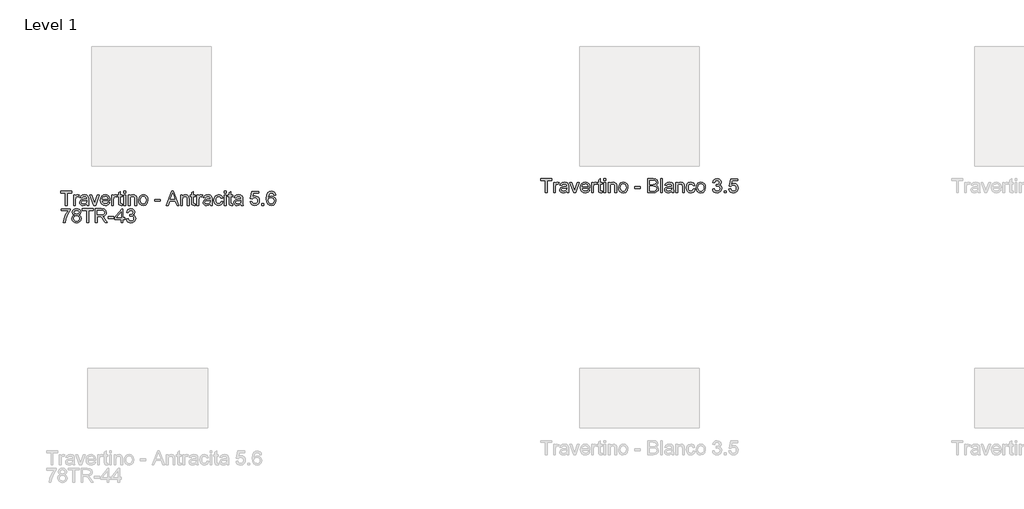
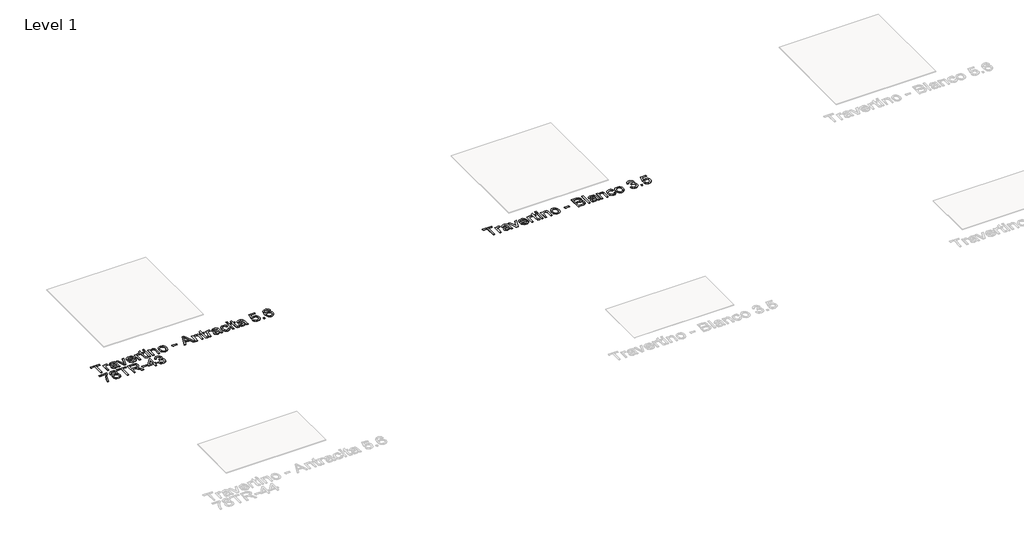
# One storey, part 14 of 80: 2 proxies.
"""IFC4 building model written with IfcOpenShell, lengths in millimetres."""

from ifc_helpers import new_model, si_unit, origin, origin_with_axes, place, context, project, spatial, polyline, outline, extrude, element, save

model = new_model("IFC4")

# Units and contexts
model_context = context("Model", 3, world=origin())
ifc_project = project(units=[si_unit("LENGTHUNIT", "METRE", prefix="MILLI")], contexts=[model_context])

# Site, building, storey
site = spatial("IfcSite", under=ifc_project)
building = spatial("IfcBuilding", under=site)
storey = spatial("IfcBuildingStorey", under=building, Name="Level 1", Elevation=0.0)

# Proxies
placement = place(None, origin())
element("IfcBuildingElementProxy", 1, Name="24\" Arial", ObjectType="24\" Arial", at=placement, inside=storey, context=model_context, shape_type="SweptSolid", body=[
    extrude(outline(polyline([(-23304.8256117, -10335.3931631), (-23304.8256117, -10232.0085477), (-23343.5948424, -10232.0085477), (-23343.5948424, -10217.239317), (-23251.2871501, -10217.239317), (-23251.2871501, -10232.0085477), (-23290.0563809, -10232.0085477), (-23290.0563809, -10335.3931631), (-23304.8256117, -10335.3931631)])), origin_with_axes(), (0.0, 0.0, 1.0), 2.0),
    extrude(outline(polyline([(-23236.5179193, -10335.3931631), (-23236.5179193, -10248.6239323), (-23223.5948424, -10248.6239323), (-23223.5948424, -10261.4604708), (-23214.4217655, -10249.6335477), (-23205.1909963, -10246.7777785), (-23190.3640732, -10251.3354708), (-23195.2967655, -10264.5758554), (-23205.6813809, -10261.5470093), (-23214.0323424, -10264.4604708), (-23219.3544578, -10272.5373939), (-23221.7486886, -10289.7873939), (-23221.7486886, -10335.3931631), (-23236.5179193, -10335.3931631)])), origin_with_axes(), (0.0, 0.0, 1.0), 2.0),
    extrude(outline(polyline([(-23125.7486886, -10324.31624), (-23140.070804, -10334.3258554), (-23155.8929193, -10337.239317), (-23168.2354674, -10335.4869131), (-23177.3400347, -10330.2297016), (-23182.9542174, -10322.2465285), (-23184.8256117, -10312.31624), (-23181.9986886, -10300.6335477), (-23174.570804, -10292.1527785), (-23164.2294578, -10287.3066247), (-23151.4506117, -10285.0854708), (-23125.835227, -10280.0085477), (-23125.7486886, -10276.7200862), (-23129.8159963, -10265.81624), (-23146.1429193, -10261.5470093), (-23161.085227, -10264.3883554), (-23168.210227, -10274.4700862), (-23182.9794578, -10272.6239323), (-23176.5900347, -10258.2008554), (-23163.7246501, -10249.7489323), (-23144.2390732, -10246.7777785), (-23126.3400347, -10249.4027785), (-23116.2294578, -10255.9941247), (-23111.7006117, -10266.0181631), (-23110.9794578, -10278.94124), (-23110.9794578, -10297.31624), (-23110.2294578, -10322.9748939), (-23107.2871501, -10335.3931631), (-23122.0563809, -10335.3931631), (-23125.7486886, -10324.31624)]), holes=[polyline([(-23125.7486886, -10294.7777785), (-23149.5756117, -10299.3066247), (-23162.2823424, -10301.7008554), (-23168.0371501, -10305.5950862), (-23170.0563809, -10311.2777785), (-23165.6573424, -10319.2681631), (-23152.7486886, -10322.4700862), (-23137.8063809, -10318.9364323), (-23128.1717655, -10310.3835477), (-23125.835227, -10298.9604708), (-23125.7486886, -10294.7777785)])]), origin_with_axes(), (0.0, 0.0, 1.0), 2.0),
    extrude(outline(polyline([(-23069.383304, -10335.3931631), (-23099.9025347, -10248.6239323), (-23084.2679193, -10248.6239323), (-23065.7775347, -10300.6047016), (-23060.210227, -10318.0854708), (-23054.758304, -10301.5854708), (-23036.1525347, -10248.6239323), (-23020.5179193, -10248.6239323), (-23050.6621501, -10335.3931631), (-23069.383304, -10335.3931631)])), origin_with_axes(), (0.0, 0.0, 1.0), 2.0),
    extrude(outline(polyline([(-22946.8448424, -10309.5470093), (-22932.3640732, -10311.3931631), (-22937.5816213, -10322.3042208), (-22945.9073424, -10330.4604708), (-22957.1537367, -10335.5446054), (-22971.133304, -10337.239317), (-22988.4626309, -10334.3150381), (-23001.7967655, -10325.5422016), (-23010.2991693, -10311.4905189), (-23013.133304, -10292.7297016), (-23010.2703232, -10273.3378747), (-23001.6813809, -10258.8354708), (-22988.5275347, -10249.7922016), (-22971.9698424, -10246.7777785), (-22955.9277751, -10249.78499), (-22943.1092655, -10258.8066247), (-22934.7042174, -10273.2801823), (-22931.9025347, -10292.6431631), (-22931.9890732, -10296.6239323), (-22998.3640732, -10296.6239323), (-22995.8075828, -10307.6792208), (-22989.8688809, -10315.8066247), (-22981.2979674, -10320.8042208), (-22970.8448424, -10322.4700862), (-22956.3640732, -10319.3835477), (-22946.8448424, -10309.5470093)]), holes=[polyline([(-22998.3640732, -10281.8547016), (-22946.6717655, -10281.8547016), (-22952.585227, -10268.4700862), (-22961.195804, -10263.2777785), (-22972.0275347, -10261.5470093), (-22990.2150347, -10267.0710477), (-22995.9373905, -10273.5289804), (-22998.3640732, -10281.8547016)])]), origin_with_axes(), (0.0, 0.0, 1.0), 2.0),
    extrude(outline(polyline([(-22917.133304, -10335.3931631), (-22917.133304, -10248.6239323), (-22904.210227, -10248.6239323), (-22904.210227, -10261.4604708), (-22895.0371501, -10249.6335477), (-22885.8063809, -10246.7777785), (-22870.9794578, -10251.3354708), (-22875.9121501, -10264.5758554), (-22886.2967655, -10261.5470093), (-22894.647727, -10264.4604708), (-22899.9698424, -10272.5373939), (-22902.3640732, -10289.7873939), (-22902.3640732, -10335.3931631), (-22917.133304, -10335.3931631)])), origin_with_axes(), (0.0, 0.0, 1.0), 2.0),
    extrude(outline(polyline([(-22830.3640732, -10323.0758554), (-22828.5179193, -10335.8258554), (-22839.5659963, -10337.239317), (-22851.9409963, -10334.7873939), (-22858.1140732, -10328.3547016), (-22859.9025347, -10311.5950862), (-22859.9025347, -10263.3931631), (-22870.9794578, -10263.3931631), (-22870.9794578, -10248.6239323), (-22859.9025347, -10248.6239323), (-22859.9025347, -10227.5373939), (-22845.133304, -10218.8547016), (-22845.133304, -10248.6239323), (-22830.3640732, -10248.6239323), (-22830.3640732, -10263.3931631), (-22845.133304, -10263.3931631), (-22845.133304, -10311.1623939), (-22844.3544578, -10318.7777785), (-22841.8304193, -10321.4748939), (-22836.7967655, -10322.4700862), (-22830.3640732, -10323.0758554)])), origin_with_axes(), (0.0, 0.0, 1.0), 2.0),
    extrude(outline(polyline([(-22815.5948424, -10232.0085477), (-22815.5948424, -10217.239317), (-22800.8256117, -10217.239317), (-22800.8256117, -10232.0085477), (-22815.5948424, -10232.0085477)])), origin_with_axes(), (0.0, 0.0, 1.0), 2.0),
    extrude(outline(polyline([(-22815.5948424, -10335.3931631), (-22815.5948424, -10248.6239323), (-22800.8256117, -10248.6239323), (-22800.8256117, -10335.3931631), (-22815.5948424, -10335.3931631)])), origin_with_axes(), (0.0, 0.0, 1.0), 2.0),
    extrude(outline(polyline([(-22778.6717655, -10335.3931631), (-22778.6717655, -10248.6239323), (-22763.9025347, -10248.6239323), (-22763.9025347, -10260.739317), (-22752.6092655, -10250.2681631), (-22737.1909963, -10246.7777785), (-22723.2438809, -10249.5902785), (-22713.7246501, -10256.9748939), (-22709.2967655, -10267.8354708), (-22708.5179193, -10282.114317), (-22708.5179193, -10335.3931631), (-22723.2871501, -10335.3931631), (-22723.2871501, -10284.1047016), (-22724.9890732, -10271.0373939), (-22731.0034963, -10264.12874), (-22741.1429193, -10261.5470093), (-22757.1669578, -10267.3450862), (-22762.2186405, -10275.7465285), (-22763.9025347, -10289.3547016), (-22763.9025347, -10335.3931631), (-22778.6717655, -10335.3931631)])), origin_with_axes(), (0.0, 0.0, 1.0), 2.0),
    extrude(outline(polyline([(-22691.9025347, -10292.0085477), (-22688.7078232, -10271.0878747), (-22679.1236886, -10256.3835477), (-22667.2823424, -10249.1792208), (-22653.1044578, -10246.7777785), (-22637.5888328, -10249.7020573), (-22625.195804, -10258.4748939), (-22617.0720059, -10272.4039804), (-22614.3640732, -10290.7970093), (-22619.1525347, -10317.0758554), (-22633.0996501, -10331.9460477), (-22653.1044578, -10337.239317), (-22668.8075828, -10334.3258554), (-22681.1861886, -10325.5854708), (-22689.2234482, -10311.364317), (-22691.9025347, -10292.0085477)]), holes=[polyline([(-22677.133304, -10291.9797016), (-22675.4241693, -10305.3462881), (-22670.2967655, -10314.8691247), (-22662.5804193, -10320.5698458), (-22653.1044578, -10322.4700862), (-22643.6717655, -10320.5590285), (-22635.9698424, -10314.8258554), (-22630.8424386, -10305.176817), (-22629.133304, -10291.5181631), (-22630.8532559, -10278.5409997), (-22636.0131117, -10269.1479708), (-22643.725852, -10263.4472497), (-22653.1044578, -10261.5470093), (-22662.5804193, -10263.4400381), (-22670.2967655, -10269.1191247), (-22675.4241693, -10278.6203266), (-22677.133304, -10291.9797016)])]), origin_with_axes(), (0.0, 0.0, 1.0), 2.0),
    extrude(outline(polyline([(-22558.9794578, -10300.31624), (-22558.9794578, -10285.5470093), (-22512.8256117, -10285.5470093), (-22512.8256117, -10300.31624), (-22558.9794578, -10300.31624)])), origin_with_axes(), (0.0, 0.0, 1.0), 2.0),
    extrude(outline(polyline([(-22461.9698424, -10335.3931631), (-22414.8063809, -10217.239317), (-22402.2294578, -10217.239317), (-22355.0659963, -10335.3931631), (-22370.6717655, -10335.3931631), (-22384.2006117, -10298.4700862), (-22432.8640732, -10298.4700862), (-22446.3640732, -10335.3931631), (-22461.9698424, -10335.3931631)]), holes=[polyline([(-22427.4409963, -10283.7008554), (-22389.5948424, -10283.7008554), (-22400.2390732, -10254.6527785), (-22408.5179193, -10232.0085477), (-22415.8736886, -10252.114317), (-22427.4409963, -10283.7008554)])]), origin_with_axes(), (0.0, 0.0, 1.0), 2.0),
    extrude(outline(polyline([(-22341.133304, -10335.3931631), (-22341.133304, -10248.6239323), (-22326.3640732, -10248.6239323), (-22326.3640732, -10260.739317), (-22315.070804, -10250.2681631), (-22299.6525347, -10246.7777785), (-22285.7054193, -10249.5902785), (-22276.1861886, -10256.9748939), (-22271.758304, -10267.8354708), (-22270.9794578, -10282.114317), (-22270.9794578, -10335.3931631), (-22285.7486886, -10335.3931631), (-22285.7486886, -10284.1047016), (-22287.4506117, -10271.0373939), (-22293.4650347, -10264.12874), (-22303.6044578, -10261.5470093), (-22319.6284963, -10267.3450862), (-22324.680179, -10275.7465285), (-22326.3640732, -10289.3547016), (-22326.3640732, -10335.3931631), (-22341.133304, -10335.3931631)])), origin_with_axes(), (0.0, 0.0, 1.0), 2.0),
    extrude(outline(polyline([(-22219.2871501, -10323.0758554), (-22217.4409963, -10335.8258554), (-22228.4890732, -10337.239317), (-22240.8640732, -10334.7873939), (-22247.0371501, -10328.3547016), (-22248.8256117, -10311.5950862), (-22248.8256117, -10263.3931631), (-22259.9025347, -10263.3931631), (-22259.9025347, -10248.6239323), (-22248.8256117, -10248.6239323), (-22248.8256117, -10227.5373939), (-22234.0563809, -10218.8547016), (-22234.0563809, -10248.6239323), (-22219.2871501, -10248.6239323), (-22219.2871501, -10263.3931631), (-22234.0563809, -10263.3931631), (-22234.0563809, -10311.1623939), (-22233.2775347, -10318.7777785), (-22230.7534963, -10321.4748939), (-22225.7198424, -10322.4700862), (-22219.2871501, -10323.0758554)])), origin_with_axes(), (0.0, 0.0, 1.0), 2.0),
    extrude(outline(polyline([(-22204.5179193, -10335.3931631), (-22204.5179193, -10248.6239323), (-22191.5948424, -10248.6239323), (-22191.5948424, -10261.4604708), (-22182.4217655, -10249.6335477), (-22173.1909963, -10246.7777785), (-22158.3640732, -10251.3354708), (-22163.2967655, -10264.5758554), (-22173.6813809, -10261.5470093), (-22182.0323424, -10264.4604708), (-22187.3544578, -10272.5373939), (-22189.7486886, -10289.7873939), (-22189.7486886, -10335.3931631), (-22204.5179193, -10335.3931631)])), origin_with_axes(), (0.0, 0.0, 1.0), 2.0),
    extrude(outline(polyline([(-22093.7486886, -10324.31624), (-22108.070804, -10334.3258554), (-22123.8929193, -10337.239317), (-22136.2354674, -10335.4869131), (-22145.3400347, -10330.2297016), (-22150.9542174, -10322.2465285), (-22152.8256117, -10312.31624), (-22149.9986886, -10300.6335477), (-22142.570804, -10292.1527785), (-22132.2294578, -10287.3066247), (-22119.4506117, -10285.0854708), (-22093.835227, -10280.0085477), (-22093.7486886, -10276.7200862), (-22097.8159963, -10265.81624), (-22114.1429193, -10261.5470093), (-22129.085227, -10264.3883554), (-22136.210227, -10274.4700862), (-22150.9794578, -10272.6239323), (-22144.5900347, -10258.2008554), (-22131.7246501, -10249.7489323), (-22112.2390732, -10246.7777785), (-22094.3400347, -10249.4027785), (-22084.2294578, -10255.9941247), (-22079.7006117, -10266.0181631), (-22078.9794578, -10278.94124), (-22078.9794578, -10297.31624), (-22078.2294578, -10322.9748939), (-22075.2871501, -10335.3931631), (-22090.0563809, -10335.3931631), (-22093.7486886, -10324.31624)]), holes=[polyline([(-22093.7486886, -10294.7777785), (-22117.5756117, -10299.3066247), (-22130.2823424, -10301.7008554), (-22136.0371501, -10305.5950862), (-22138.0563809, -10311.2777785), (-22133.6573424, -10319.2681631), (-22120.7486886, -10322.4700862), (-22105.8063809, -10318.9364323), (-22096.1717655, -10310.3835477), (-22093.835227, -10298.9604708), (-22093.7486886, -10294.7777785)])]), origin_with_axes(), (0.0, 0.0, 1.0), 2.0),
    extrude(outline(polyline([(-22003.2871501, -10304.0085477), (-21988.5179193, -10305.8547016), (-21992.6357078, -10318.9905189), (-22000.3736886, -10328.9172016), (-22011.0034963, -10335.1587881), (-22023.7967655, -10337.239317), (-22039.507102, -10334.3366727), (-22051.7919578, -10325.62874), (-22059.7210443, -10311.4977304), (-22062.3640732, -10292.3258554), (-22057.8496501, -10267.7922016), (-22052.1525347, -10258.5938843), (-22044.0900347, -10252.0277785), (-22023.9986886, -10246.7777785), (-22011.5191213, -10248.5806631), (-22001.5419578, -10253.989317), (-21994.3845059, -10262.7152785), (-21990.3640732, -10274.4700862), (-22005.133304, -10276.31624), (-22011.9842655, -10265.25374), (-22023.883304, -10261.5470093), (-22033.4277751, -10263.3715285), (-22041.0034963, -10268.8450862), (-22045.9470059, -10278.2633554), (-22047.5948424, -10291.9220093), (-22045.9830636, -10305.7645573), (-22041.147727, -10315.2152785), (-22033.7090251, -10320.6563843), (-22024.2871501, -10322.4700862), (-22010.3688809, -10317.94124), (-22003.2871501, -10304.0085477)])), origin_with_axes(), (0.0, 0.0, 1.0), 2.0),
    extrude(outline(polyline([(-21975.5948424, -10232.0085477), (-21975.5948424, -10217.239317), (-21960.8256117, -10217.239317), (-21960.8256117, -10232.0085477), (-21975.5948424, -10232.0085477)])), origin_with_axes(), (0.0, 0.0, 1.0), 2.0),
    extrude(outline(polyline([(-21975.5948424, -10335.3931631), (-21975.5948424, -10248.6239323), (-21960.8256117, -10248.6239323), (-21960.8256117, -10335.3931631), (-21975.5948424, -10335.3931631)])), origin_with_axes(), (0.0, 0.0, 1.0), 2.0),
    extrude(outline(polyline([(-21907.2871501, -10323.0758554), (-21905.4409963, -10335.8258554), (-21916.4890732, -10337.239317), (-21928.8640732, -10334.7873939), (-21935.0371501, -10328.3547016), (-21936.8256117, -10311.5950862), (-21936.8256117, -10263.3931631), (-21947.9025347, -10263.3931631), (-21947.9025347, -10248.6239323), (-21936.8256117, -10248.6239323), (-21936.8256117, -10227.5373939), (-21922.0563809, -10218.8547016), (-21922.0563809, -10248.6239323), (-21907.2871501, -10248.6239323), (-21907.2871501, -10263.3931631), (-21922.0563809, -10263.3931631), (-21922.0563809, -10311.1623939), (-21921.2775347, -10318.7777785), (-21918.7534963, -10321.4748939), (-21913.7198424, -10322.4700862), (-21907.2871501, -10323.0758554)])), origin_with_axes(), (0.0, 0.0, 1.0), 2.0),
    extrude(outline(polyline([(-21837.133304, -10324.31624), (-21851.4554193, -10334.3258554), (-21867.2775347, -10337.239317), (-21879.6200828, -10335.4869131), (-21888.7246501, -10330.2297016), (-21894.3388328, -10322.2465285), (-21896.210227, -10312.31624), (-21893.383304, -10300.6335477), (-21885.9554193, -10292.1527785), (-21875.6140732, -10287.3066247), (-21862.835227, -10285.0854708), (-21837.2198424, -10280.0085477), (-21837.133304, -10276.7200862), (-21841.2006117, -10265.81624), (-21857.5275347, -10261.5470093), (-21872.4698424, -10264.3883554), (-21879.5948424, -10274.4700862), (-21894.3640732, -10272.6239323), (-21887.9746501, -10258.2008554), (-21875.1092655, -10249.7489323), (-21855.6236886, -10246.7777785), (-21837.7246501, -10249.4027785), (-21827.6140732, -10255.9941247), (-21823.085227, -10266.0181631), (-21822.3640732, -10278.94124), (-21822.3640732, -10297.31624), (-21821.6140732, -10322.9748939), (-21818.6717655, -10335.3931631), (-21833.4409963, -10335.3931631), (-21837.133304, -10324.31624)]), holes=[polyline([(-21837.133304, -10294.7777785), (-21860.960227, -10299.3066247), (-21873.6669578, -10301.7008554), (-21879.4217655, -10305.5950862), (-21881.4409963, -10311.2777785), (-21877.0419578, -10319.2681631), (-21864.133304, -10322.4700862), (-21849.1909963, -10318.9364323), (-21839.5563809, -10310.3835477), (-21837.2198424, -10298.9604708), (-21837.133304, -10294.7777785)])]), origin_with_axes(), (0.0, 0.0, 1.0), 2.0),
    extrude(outline(polyline([(-21759.5948424, -10304.0085477), (-21744.8256117, -10302.1623939), (-21737.383304, -10317.37874), (-21721.9506117, -10322.4700862), (-21711.3640732, -10320.6996535), (-21703.4313809, -10315.3883554), (-21698.477054, -10307.1491727), (-21696.8256117, -10296.5950862), (-21698.3724867, -10286.6575862), (-21703.0131117, -10279.0566247), (-21710.7835443, -10274.2321054), (-21721.7198424, -10272.6239323), (-21734.6861886, -10275.19124), (-21742.9794578, -10281.8547016), (-21757.7486886, -10280.0085477), (-21744.8256117, -10219.0854708), (-21687.5948424, -10219.0854708), (-21687.5948424, -10233.8547016), (-21732.883304, -10233.8547016), (-21739.2006117, -10266.3931631), (-21728.6501309, -10259.989317), (-21717.5948424, -10257.8547016), (-21703.7955636, -10260.5013362), (-21692.3400347, -10268.44124), (-21684.6272943, -10280.5422016), (-21682.0563809, -10295.6720093), (-21684.3712847, -10310.44124), (-21691.3159963, -10323.0758554), (-21704.6140732, -10333.6984516), (-21722.008304, -10337.239317), (-21736.5143136, -10334.9640766), (-21748.070804, -10328.1383554), (-21755.992679, -10317.5554227), (-21759.5948424, -10304.0085477)])), origin_with_axes(), (0.0, 0.0, 1.0), 2.0),
    extrude(outline(polyline([(-21661.7486886, -10335.3931631), (-21661.7486886, -10320.6239323), (-21646.9794578, -10320.6239323), (-21646.9794578, -10335.3931631), (-21661.7486886, -10335.3931631)])), origin_with_axes(), (0.0, 0.0, 1.0), 2.0),
    extrude(outline(polyline([(-21547.2871501, -10248.6239323), (-21562.0563809, -10250.4700862), (-21567.6525347, -10238.1527785), (-21574.352054, -10233.5446054), (-21582.4506117, -10232.0085477), (-21595.7775347, -10235.5854708), (-21605.8592655, -10249.0133554), (-21610.0563809, -10275.3354708), (-21597.0323424, -10263.551817), (-21580.8929193, -10259.7008554), (-21567.2486886, -10262.333067), (-21555.7967655, -10270.2297016), (-21548.0299386, -10282.2946054), (-21545.4409963, -10297.4316247), (-21550.3159963, -10317.8114323), (-21563.7294578, -10332.2345093), (-21583.085227, -10337.239317), (-21599.8412367, -10333.9220093), (-21613.1861886, -10323.9700862), (-21621.9157559, -10306.4027785), (-21624.8256117, -10280.239317), (-21621.5948424, -10250.8234516), (-21611.9025347, -10230.7104708), (-21598.6693617, -10220.6071054), (-21581.5275347, -10217.239317), (-21568.5684001, -10219.3234516), (-21558.1909963, -10225.5758554), (-21550.9217655, -10235.5061439), (-21547.2871501, -10248.6239323)]), holes=[polyline([(-21610.0563809, -10297.2008554), (-21606.6381117, -10309.9941247), (-21597.5515732, -10319.2825862), (-21584.2390732, -10322.4700862), (-21574.492679, -10320.8186439), (-21566.8304193, -10315.864317), (-21561.8652751, -10308.0758554), (-21560.210227, -10297.9220093), (-21561.8436405, -10288.175615), (-21566.7438809, -10280.7441247), (-21574.5359482, -10276.0385958), (-21584.8448424, -10274.4700862), (-21594.5768136, -10276.0385958), (-21602.7150347, -10280.7441247), (-21608.2210443, -10287.9953266), (-21610.0563809, -10297.2008554)])]), origin_with_axes(), (0.0, 0.0, 1.0), 2.0),
    extrude(outline(polyline([(-23339.9025347, -10379.7008554), (-23339.9025347, -10364.9316247), (-23262.3640732, -10364.9316247), (-23262.3640732, -10376.8739323), (-23284.3592655, -10408.6479708), (-23301.1909963, -10449.1335477), (-23306.6717655, -10481.239317), (-23321.4409963, -10481.239317), (-23315.570804, -10447.9220093), (-23299.460227, -10410.2633554), (-23277.133304, -10379.7008554), (-23339.9025347, -10379.7008554)])), origin_with_axes(), (0.0, 0.0, 1.0), 2.0),
    extrude(outline(polyline([(-23227.9217655, -10416.1623939), (-23241.3784963, -10406.989317), (-23245.7486886, -10392.7104708), (-23243.3688809, -10381.1647977), (-23236.2294578, -10371.6239323), (-23225.1309001, -10365.2200862), (-23210.8736886, -10363.0854708), (-23196.5299386, -10365.270567), (-23185.2871501, -10371.8258554), (-23178.0179193, -10381.5181631), (-23175.5948424, -10393.114317), (-23179.9073424, -10407.0325862), (-23192.9890732, -10416.1623939), (-23183.898929, -10420.8462881), (-23177.2823424, -10427.7441247), (-23171.9025347, -10446.8547016), (-23174.570804, -10460.9748939), (-23182.5756117, -10472.6431631), (-23194.9361886, -10480.4748939), (-23210.6717655, -10483.0854708), (-23226.4073424, -10480.4640766), (-23238.7679193, -10472.5998939), (-23246.772727, -10460.8198458), (-23249.4409963, -10446.4508554), (-23248.0419578, -10435.7200862), (-23243.8448424, -10426.8931631), (-23237.0659963, -10420.2729708), (-23227.9217655, -10416.1623939)]), holes=[polyline([(-23234.6717655, -10445.9316247), (-23232.2054193, -10457.051817), (-23223.4794578, -10465.3739323), (-23210.5563809, -10468.31624), (-23200.5034963, -10466.769365), (-23192.960227, -10462.12874), (-23188.2438809, -10455.1010958), (-23186.6717655, -10446.3931631), (-23188.2943617, -10437.5373939), (-23193.1621501, -10430.3547016), (-23200.8784963, -10425.5950862), (-23211.0467655, -10424.0085477), (-23220.9590251, -10425.5734516), (-23228.4265732, -10430.2681631), (-23233.1104674, -10437.3138362), (-23234.6717655, -10445.9316247)]), polyline([(-23230.9794578, -10393.1431631), (-23225.7438809, -10404.739317), (-23210.4986886, -10409.239317), (-23195.5563809, -10404.7681631), (-23190.3640732, -10393.8066247), (-23195.7294578, -10382.4556631), (-23210.6717655, -10377.8547016), (-23225.6573424, -10382.3547016), (-23230.9794578, -10393.1431631)])]), origin_with_axes(), (0.0, 0.0, 1.0), 2.0),
    extrude(outline(polyline([(-23123.9025347, -10481.239317), (-23123.9025347, -10377.8547016), (-23162.6717655, -10377.8547016), (-23162.6717655, -10363.0854708), (-23070.3640732, -10363.0854708), (-23070.3640732, -10377.8547016), (-23109.133304, -10377.8547016), (-23109.133304, -10481.239317), (-23123.9025347, -10481.239317)])), origin_with_axes(), (0.0, 0.0, 1.0), 2.0),
    extrude(outline(polyline([(-23053.7486886, -10481.239317), (-23053.7486886, -10363.0854708), (-23002.835227, -10363.0854708), (-22979.195804, -10366.2729708), (-22966.272727, -10377.551817), (-22961.4409963, -10395.4220093), (-22963.4421982, -10407.0614323), (-22969.445804, -10416.7104708), (-22979.632102, -10423.78499), (-22994.1813809, -10427.7008554), (-22985.7871501, -10434.0181631), (-22973.8159963, -10449.2200862), (-22954.1140732, -10481.239317), (-22971.2775347, -10481.239317), (-22986.6525347, -10456.7489323), (-22997.758304, -10440.5373939), (-23005.5611886, -10432.87874), (-23012.585227, -10430.06624), (-23021.1525347, -10429.5470093), (-23038.9794578, -10429.5470093), (-23038.9794578, -10481.239317), (-23053.7486886, -10481.239317)]), holes=[polyline([(-23038.9794578, -10414.7777785), (-23005.9217655, -10414.7777785), (-22989.0611886, -10412.6864323), (-22979.4842655, -10405.9941247), (-22976.210227, -10395.9700862), (-22977.7715251, -10388.7657593), (-22982.4554193, -10382.9604708), (-22990.5143136, -10379.1311439), (-23002.2006117, -10377.8547016), (-23038.9794578, -10377.8547016), (-23038.9794578, -10414.7777785)])]), origin_with_axes(), (0.0, 0.0, 1.0), 2.0),
    extrude(outline(polyline([(-22944.8256117, -10446.1623939), (-22944.8256117, -10431.3931631), (-22898.6717655, -10431.3931631), (-22898.6717655, -10446.1623939), (-22944.8256117, -10446.1623939)])), origin_with_axes(), (0.0, 0.0, 1.0), 2.0),
    extrude(outline(polyline([(-22837.7486886, -10481.239317), (-22837.7486886, -10453.5470093), (-22891.2871501, -10453.5470093), (-22891.2871501, -10438.7777785), (-22834.0563809, -10364.9316247), (-22822.9794578, -10364.9316247), (-22822.9794578, -10438.7777785), (-22808.210227, -10438.7777785), (-22808.210227, -10453.5470093), (-22822.9794578, -10453.5470093), (-22822.9794578, -10481.239317), (-22837.7486886, -10481.239317)]), holes=[polyline([(-22837.7486886, -10438.7777785), (-22837.7486886, -10393.1431631), (-22873.1140732, -10438.7777785), (-22837.7486886, -10438.7777785)])]), origin_with_axes(), (0.0, 0.0, 1.0), 2.0),
    extrude(outline(polyline([(-22795.2871501, -10449.8547016), (-22780.5179193, -10448.0085477), (-22772.3688809, -10463.5566247), (-22757.1236886, -10468.31624), (-22746.9986886, -10466.6792208), (-22739.1813809, -10461.7681631), (-22734.1837847, -10454.44124), (-22732.5179193, -10445.5566247), (-22734.1693617, -10437.1227304), (-22739.1236886, -10430.2825862), (-22746.6236886, -10425.7501343), (-22755.9121501, -10424.239317), (-22766.2679193, -10425.8547016), (-22764.6236886, -10411.0854708), (-22762.258304, -10411.2585477), (-22745.4986886, -10407.0181631), (-22739.9169578, -10401.6383554), (-22738.0563809, -10393.9797016), (-22743.4506117, -10382.426817), (-22757.3544578, -10377.8547016), (-22771.4313809, -10382.4700862), (-22778.6717655, -10396.31624), (-22793.4409963, -10394.4700862), (-22789.0924386, -10381.208067), (-22781.3544578, -10371.3066247), (-22770.7679193, -10365.1407593), (-22757.8736886, -10363.0854708), (-22740.0611886, -10367.1383554), (-22727.5996501, -10378.2152785), (-22723.2871501, -10393.114317), (-22727.383304, -10406.7297016), (-22739.4986886, -10416.5085477), (-22730.2534963, -10420.2441247), (-22723.4025347, -10426.6047016), (-22719.1621501, -10435.2441247), (-22717.7486886, -10445.81624), (-22720.5756117, -10460.2104708), (-22729.0563809, -10472.239317), (-22741.8568617, -10480.3739323), (-22757.6429193, -10483.0854708), (-22771.9217655, -10480.770567), (-22783.5467655, -10473.8258554), (-22791.6309001, -10463.2032593), (-22795.2871501, -10449.8547016)])), origin_with_axes(), (0.0, 0.0, 1.0), 2.0),
])
element("IfcBuildingElementProxy", 2, Name="24\" Arial", ObjectType="24\" Arial", at=placement, inside=storey, context=model_context, shape_type="SweptSolid", body=[
    extrude(outline(polyline([(-19292.9222617, -10230.2191462), (-19292.9222617, -10126.8345308), (-19331.6914925, -10126.8345308), (-19331.6914925, -10112.0653001), (-19239.3838002, -10112.0653001), (-19239.3838002, -10126.8345308), (-19278.153031, -10126.8345308), (-19278.153031, -10230.2191462), (-19292.9222617, -10230.2191462)])), origin_with_axes(), (0.0, 0.0, 1.0), 2.0),
    extrude(outline(polyline([(-19224.6145694, -10230.2191462), (-19224.6145694, -10143.4499154), (-19211.6914925, -10143.4499154), (-19211.6914925, -10156.2864539), (-19202.5184156, -10144.4595308), (-19193.2876464, -10141.6037616), (-19178.4607233, -10146.1614539), (-19183.3934156, -10159.4018385), (-19193.778031, -10156.3729924), (-19202.1289925, -10159.2864539), (-19207.4511079, -10167.363377), (-19209.8453387, -10184.613377), (-19209.8453387, -10230.2191462), (-19224.6145694, -10230.2191462)])), origin_with_axes(), (0.0, 0.0, 1.0), 2.0),
    extrude(outline(polyline([(-19113.8453387, -10219.1422231), (-19128.1674541, -10229.1518385), (-19143.9895694, -10232.0653001), (-19156.3321175, -10230.3128962), (-19165.4366848, -10225.0556847), (-19171.0508675, -10217.0725116), (-19172.9222617, -10207.1422231), (-19170.0953387, -10195.4595308), (-19162.6674541, -10186.9787616), (-19152.3261079, -10182.1326077), (-19139.5472617, -10179.9114539), (-19113.9318771, -10174.8345308), (-19113.8453387, -10171.5460693), (-19117.9126464, -10160.6422231), (-19134.2395694, -10156.3729924), (-19149.1818771, -10159.2143385), (-19156.3068771, -10169.2960693), (-19171.0761079, -10167.4499154), (-19164.6866848, -10153.0268385), (-19151.8213002, -10144.5749154), (-19132.3357233, -10141.6037616), (-19114.4366848, -10144.2287616), (-19104.3261079, -10150.8201077), (-19099.7972617, -10160.8441462), (-19099.0761079, -10173.7672231), (-19099.0761079, -10192.1422231), (-19098.3261079, -10217.800877), (-19095.3838002, -10230.2191462), (-19110.153031, -10230.2191462), (-19113.8453387, -10219.1422231)]), holes=[polyline([(-19113.8453387, -10189.6037616), (-19137.6722617, -10194.1326077), (-19150.3789925, -10196.5268385), (-19156.1338002, -10200.4210693), (-19158.153031, -10206.1037616), (-19153.7539925, -10214.0941462), (-19140.8453387, -10217.2960693), (-19125.903031, -10213.7624154), (-19116.2684156, -10205.2095308), (-19113.9318771, -10193.7864539), (-19113.8453387, -10189.6037616)])]), origin_with_axes(), (0.0, 0.0, 1.0), 2.0),
    extrude(outline(polyline([(-19057.4799541, -10230.2191462), (-19087.9991848, -10143.4499154), (-19072.3645694, -10143.4499154), (-19053.8741848, -10195.4306847), (-19048.3068771, -10212.9114539), (-19042.8549541, -10196.4114539), (-19024.2491848, -10143.4499154), (-19008.6145694, -10143.4499154), (-19038.7588002, -10230.2191462), (-19057.4799541, -10230.2191462)])), origin_with_axes(), (0.0, 0.0, 1.0), 2.0),
    extrude(outline(polyline([(-18934.9414925, -10204.3729924), (-18920.4607233, -10206.2191462), (-18925.6782714, -10217.1302039), (-18934.0039925, -10225.2864539), (-18945.2503867, -10230.3705885), (-18959.2299541, -10232.0653001), (-18976.559281, -10229.1410212), (-18989.8934156, -10220.3681847), (-18998.3958194, -10206.316502), (-19001.2299541, -10187.5556847), (-18998.3669733, -10168.1638577), (-18989.778031, -10153.6614539), (-18976.6241848, -10144.6181847), (-18960.0664925, -10141.6037616), (-18944.0244252, -10144.6109731), (-18931.2059156, -10153.6326077), (-18922.8008675, -10168.1061654), (-18919.9991848, -10187.4691462), (-18920.0857233, -10191.4499154), (-18986.4607233, -10191.4499154), (-18983.9042329, -10202.5052039), (-18977.965531, -10210.6326077), (-18969.3946175, -10215.6302039), (-18958.9414925, -10217.2960693), (-18944.4607233, -10214.2095308), (-18934.9414925, -10204.3729924)]), holes=[polyline([(-18986.4607233, -10176.6806847), (-18934.7684156, -10176.6806847), (-18940.6818771, -10163.2960693), (-18949.2924541, -10158.1037616), (-18960.1241848, -10156.3729924), (-18978.3116848, -10161.8970308), (-18984.0340406, -10168.3549635), (-18986.4607233, -10176.6806847)])]), origin_with_axes(), (0.0, 0.0, 1.0), 2.0),
    extrude(outline(polyline([(-18905.2299541, -10230.2191462), (-18905.2299541, -10143.4499154), (-18892.3068771, -10143.4499154), (-18892.3068771, -10156.2864539), (-18883.1338002, -10144.4595308), (-18873.903031, -10141.6037616), (-18859.0761079, -10146.1614539), (-18864.0088002, -10159.4018385), (-18874.3934156, -10156.3729924), (-18882.7443771, -10159.2864539), (-18888.0664925, -10167.363377), (-18890.4607233, -10184.613377), (-18890.4607233, -10230.2191462), (-18905.2299541, -10230.2191462)])), origin_with_axes(), (0.0, 0.0, 1.0), 2.0),
    extrude(outline(polyline([(-18818.4607233, -10217.9018385), (-18816.6145694, -10230.6518385), (-18827.6626464, -10232.0653001), (-18840.0376464, -10229.613377), (-18846.2107233, -10223.1806847), (-18847.9991848, -10206.4210693), (-18847.9991848, -10158.2191462), (-18859.0761079, -10158.2191462), (-18859.0761079, -10143.4499154), (-18847.9991848, -10143.4499154), (-18847.9991848, -10122.363377), (-18833.2299541, -10113.6806847), (-18833.2299541, -10143.4499154), (-18818.4607233, -10143.4499154), (-18818.4607233, -10158.2191462), (-18833.2299541, -10158.2191462), (-18833.2299541, -10205.988377), (-18832.4511079, -10213.6037616), (-18829.9270694, -10216.300877), (-18824.8934156, -10217.2960693), (-18818.4607233, -10217.9018385)])), origin_with_axes(), (0.0, 0.0, 1.0), 2.0),
    extrude(outline(polyline([(-18803.6914925, -10126.8345308), (-18803.6914925, -10112.0653001), (-18788.9222617, -10112.0653001), (-18788.9222617, -10126.8345308), (-18803.6914925, -10126.8345308)])), origin_with_axes(), (0.0, 0.0, 1.0), 2.0),
    extrude(outline(polyline([(-18803.6914925, -10230.2191462), (-18803.6914925, -10143.4499154), (-18788.9222617, -10143.4499154), (-18788.9222617, -10230.2191462), (-18803.6914925, -10230.2191462)])), origin_with_axes(), (0.0, 0.0, 1.0), 2.0),
    extrude(outline(polyline([(-18766.7684156, -10230.2191462), (-18766.7684156, -10143.4499154), (-18751.9991848, -10143.4499154), (-18751.9991848, -10155.5653001), (-18740.7059156, -10145.0941462), (-18725.2876464, -10141.6037616), (-18711.340531, -10144.4162616), (-18701.8213002, -10151.800877), (-18697.3934156, -10162.6614539), (-18696.6145694, -10176.9403001), (-18696.6145694, -10230.2191462), (-18711.3838002, -10230.2191462), (-18711.3838002, -10178.9306847), (-18713.0857233, -10165.863377), (-18719.1001464, -10158.9547231), (-18729.2395694, -10156.3729924), (-18745.2636079, -10162.1710693), (-18750.3152906, -10170.5725116), (-18751.9991848, -10184.1806847), (-18751.9991848, -10230.2191462), (-18766.7684156, -10230.2191462)])), origin_with_axes(), (0.0, 0.0, 1.0), 2.0),
    extrude(outline(polyline([(-18679.9991848, -10186.8345308), (-18676.8044733, -10165.9138577), (-18667.2203387, -10151.2095308), (-18655.3789925, -10144.0052039), (-18641.2011079, -10141.6037616), (-18625.6854829, -10144.5280404), (-18613.2924541, -10153.300877), (-18605.168656, -10167.2299635), (-18602.4607233, -10185.6229924), (-18607.2491848, -10211.9018385), (-18621.1963002, -10226.7720308), (-18641.2011079, -10232.0653001), (-18656.9042329, -10229.1518385), (-18669.2828387, -10220.4114539), (-18677.3200983, -10206.1903001), (-18679.9991848, -10186.8345308)]), holes=[polyline([(-18665.2299541, -10186.8056847), (-18663.5208194, -10200.1722712), (-18658.3934156, -10209.6951077), (-18650.6770694, -10215.3958289), (-18641.2011079, -10217.2960693), (-18631.7684156, -10215.3850116), (-18624.0664925, -10209.6518385), (-18618.9390887, -10200.0028001), (-18617.2299541, -10186.3441462), (-18618.949906, -10173.3669827), (-18624.1097617, -10163.9739539), (-18631.8225021, -10158.2732327), (-18641.2011079, -10156.3729924), (-18650.6770694, -10158.2660212), (-18658.3934156, -10163.9451077), (-18663.5208194, -10173.4463097), (-18665.2299541, -10186.8056847)])]), origin_with_axes(), (0.0, 0.0, 1.0), 2.0),
    extrude(outline(polyline([(-18547.0761079, -10195.1422231), (-18547.0761079, -10180.3729924), (-18500.9222617, -10180.3729924), (-18500.9222617, -10195.1422231), (-18547.0761079, -10195.1422231)])), origin_with_axes(), (0.0, 0.0, 1.0), 2.0),
    extrude(outline(polyline([(-18436.3068771, -10230.2191462), (-18436.3068771, -10112.0653001), (-18391.2203387, -10112.0653001), (-18369.1386079, -10115.5412616), (-18356.1001464, -10126.2287616), (-18351.3838002, -10141.3441462), (-18355.3501464, -10155.1470308), (-18367.3357233, -10165.6037616), (-18352.7828387, -10176.6229924), (-18347.6914925, -10194.9979924), (-18351.1674541, -10210.8778001), (-18359.778031, -10222.1854924), (-18372.6289925, -10228.1854924), (-18391.5664925, -10230.2191462), (-18436.3068771, -10230.2191462)]), holes=[polyline([(-18421.5376464, -10215.4499154), (-18391.2491848, -10215.4499154), (-18380.2876464, -10214.8729924), (-18371.0136079, -10211.6566462), (-18364.8693771, -10205.0941462), (-18362.4607233, -10195.1422231), (-18365.2876464, -10183.6614539), (-18374.4463002, -10176.8104924), (-18392.6914925, -10174.8345308), (-18421.5376464, -10174.8345308), (-18421.5376464, -10215.4499154)]), polyline([(-18421.5376464, -10160.0653001), (-18394.5664925, -10160.0653001), (-18378.8164925, -10158.7960693), (-18369.340531, -10153.3297231), (-18366.153031, -10143.7095308), (-18369.1241848, -10134.0749154), (-18377.6338002, -10128.3778001), (-18396.6145694, -10126.8345308), (-18421.5376464, -10126.8345308), (-18421.5376464, -10160.0653001)])]), origin_with_axes(), (0.0, 0.0, 1.0), 2.0),
    extrude(outline(polyline([(-18329.2299541, -10230.2191462), (-18329.2299541, -10112.0653001), (-18314.4607233, -10112.0653001), (-18314.4607233, -10230.2191462), (-18329.2299541, -10230.2191462)])), origin_with_axes(), (0.0, 0.0, 1.0), 2.0),
    extrude(outline(polyline([(-18236.9222617, -10219.1422231), (-18251.2443771, -10229.1518385), (-18267.0664925, -10232.0653001), (-18279.4090406, -10230.3128962), (-18288.5136079, -10225.0556847), (-18294.1277906, -10217.0725116), (-18295.9991848, -10207.1422231), (-18293.1722617, -10195.4595308), (-18285.7443771, -10186.9787616), (-18275.403031, -10182.1326077), (-18262.6241848, -10179.9114539), (-18237.0088002, -10174.8345308), (-18236.9222617, -10171.5460693), (-18240.9895694, -10160.6422231), (-18257.3164925, -10156.3729924), (-18272.2588002, -10159.2143385), (-18279.3838002, -10169.2960693), (-18294.153031, -10167.4499154), (-18287.7636079, -10153.0268385), (-18274.8982233, -10144.5749154), (-18255.4126464, -10141.6037616), (-18237.5136079, -10144.2287616), (-18227.403031, -10150.8201077), (-18222.8741848, -10160.8441462), (-18222.153031, -10173.7672231), (-18222.153031, -10192.1422231), (-18221.403031, -10217.800877), (-18218.4607233, -10230.2191462), (-18233.2299541, -10230.2191462), (-18236.9222617, -10219.1422231)]), holes=[polyline([(-18236.9222617, -10189.6037616), (-18260.7491848, -10194.1326077), (-18273.4559156, -10196.5268385), (-18279.2107233, -10200.4210693), (-18281.2299541, -10206.1037616), (-18276.8309156, -10214.0941462), (-18263.9222617, -10217.2960693), (-18248.9799541, -10213.7624154), (-18239.3453387, -10205.2095308), (-18237.0088002, -10193.7864539), (-18236.9222617, -10189.6037616)])]), origin_with_axes(), (0.0, 0.0, 1.0), 2.0),
    extrude(outline(polyline([(-18201.8453387, -10230.2191462), (-18201.8453387, -10143.4499154), (-18187.0761079, -10143.4499154), (-18187.0761079, -10155.5653001), (-18175.7828387, -10145.0941462), (-18160.3645694, -10141.6037616), (-18146.4174541, -10144.4162616), (-18136.8982233, -10151.800877), (-18132.4703387, -10162.6614539), (-18131.6914925, -10176.9403001), (-18131.6914925, -10230.2191462), (-18146.4607233, -10230.2191462), (-18146.4607233, -10178.9306847), (-18148.1626464, -10165.863377), (-18154.1770694, -10158.9547231), (-18164.3164925, -10156.3729924), (-18180.340531, -10162.1710693), (-18185.3922137, -10170.5725116), (-18187.0761079, -10184.1806847), (-18187.0761079, -10230.2191462), (-18201.8453387, -10230.2191462)])), origin_with_axes(), (0.0, 0.0, 1.0), 2.0),
    extrude(outline(polyline([(-18055.9991848, -10198.8345308), (-18041.2299541, -10200.6806847), (-18045.3477425, -10213.816502), (-18053.0857233, -10223.7431847), (-18063.715531, -10229.9847712), (-18076.5088002, -10232.0653001), (-18092.2191367, -10229.1626558), (-18104.5039925, -10220.4547231), (-18112.4330791, -10206.3237135), (-18115.0761079, -10187.1518385), (-18110.5616848, -10162.6181847), (-18104.8645694, -10153.4198674), (-18096.8020694, -10146.8537616), (-18076.7107233, -10141.6037616), (-18064.231156, -10143.4066462), (-18054.2539925, -10148.8153001), (-18047.0965406, -10157.5412616), (-18043.0761079, -10169.2960693), (-18057.8453387, -10171.1422231), (-18064.6963002, -10160.0797231), (-18076.5953387, -10156.3729924), (-18086.1398098, -10158.1975116), (-18093.715531, -10163.6710693), (-18098.6590406, -10173.0893385), (-18100.3068771, -10186.7479924), (-18098.6950983, -10200.5905404), (-18093.8597617, -10210.0412616), (-18086.4210598, -10215.4823674), (-18076.9991848, -10217.2960693), (-18063.0809156, -10212.7672231), (-18055.9991848, -10198.8345308)])), origin_with_axes(), (0.0, 0.0, 1.0), 2.0),
    extrude(outline(polyline([(-18031.9991848, -10186.8345308), (-18028.8044733, -10165.9138577), (-18019.2203387, -10151.2095308), (-18007.3789925, -10144.0052039), (-17993.2011079, -10141.6037616), (-17977.6854829, -10144.5280404), (-17965.2924541, -10153.300877), (-17957.168656, -10167.2299635), (-17954.4607233, -10185.6229924), (-17959.2491848, -10211.9018385), (-17973.1963002, -10226.7720308), (-17993.2011079, -10232.0653001), (-18008.9042329, -10229.1518385), (-18021.2828387, -10220.4114539), (-18029.3200983, -10206.1903001), (-18031.9991848, -10186.8345308)]), holes=[polyline([(-18017.2299541, -10186.8056847), (-18015.5208194, -10200.1722712), (-18010.3934156, -10209.6951077), (-18002.6770694, -10215.3958289), (-17993.2011079, -10217.2960693), (-17983.7684156, -10215.3850116), (-17976.0664925, -10209.6518385), (-17970.9390887, -10200.0028001), (-17969.2299541, -10186.3441462), (-17970.949906, -10173.3669827), (-17976.1097617, -10163.9739539), (-17983.8225021, -10158.2732327), (-17993.2011079, -10156.3729924), (-18002.6770694, -10158.2660212), (-18010.3934156, -10163.9451077), (-18015.5208194, -10173.4463097), (-18017.2299541, -10186.8056847)])]), origin_with_axes(), (0.0, 0.0, 1.0), 2.0),
    extrude(outline(polyline([(-17895.3838002, -10198.8345308), (-17880.6145694, -10196.988377), (-17872.465531, -10212.5364539), (-17857.2203387, -10217.2960693), (-17847.0953387, -10215.6590501), (-17839.278031, -10210.7479924), (-17834.2804348, -10203.4210693), (-17832.6145694, -10194.5364539), (-17834.2660117, -10186.1025597), (-17839.2203387, -10179.2624154), (-17846.7203387, -10174.7299635), (-17856.0088002, -10173.2191462), (-17866.3645694, -10174.8345308), (-17864.7203387, -10160.0653001), (-17862.3549541, -10160.238377), (-17845.5953387, -10155.9979924), (-17840.0136079, -10150.6181847), (-17838.153031, -10142.9595308), (-17843.5472617, -10131.4066462), (-17857.4511079, -10126.8345308), (-17871.528031, -10131.4499154), (-17878.7684156, -10145.2960693), (-17893.5376464, -10143.4499154), (-17889.1890887, -10130.1878962), (-17881.4511079, -10120.2864539), (-17870.8645694, -10114.1205885), (-17857.9703387, -10112.0653001), (-17840.1578387, -10116.1181847), (-17827.6963002, -10127.1951077), (-17823.3838002, -10142.0941462), (-17827.4799541, -10155.7095308), (-17839.5953387, -10165.488377), (-17830.3501464, -10169.2239539), (-17823.4991848, -10175.5845308), (-17819.2588002, -10184.2239539), (-17817.8453387, -10194.7960693), (-17820.6722617, -10209.1903001), (-17829.153031, -10221.2191462), (-17841.9535117, -10229.3537616), (-17857.7395694, -10232.0653001), (-17872.0184156, -10229.7503962), (-17883.6434156, -10222.8056847), (-17891.7275502, -10212.1830885), (-17895.3838002, -10198.8345308)])), origin_with_axes(), (0.0, 0.0, 1.0), 2.0),
    extrude(outline(polyline([(-17797.5376464, -10230.2191462), (-17797.5376464, -10215.4499154), (-17782.7684156, -10215.4499154), (-17782.7684156, -10230.2191462), (-17797.5376464, -10230.2191462)])), origin_with_axes(), (0.0, 0.0, 1.0), 2.0),
    extrude(outline(polyline([(-17758.7684156, -10198.8345308), (-17743.9991848, -10196.988377), (-17736.5568771, -10212.2047231), (-17721.1241848, -10217.2960693), (-17710.5376464, -10215.5256366), (-17702.6049541, -10210.2143385), (-17697.6506271, -10201.9751558), (-17695.9991848, -10191.4210693), (-17697.5460598, -10181.4835693), (-17702.1866848, -10173.8826077), (-17709.9571175, -10169.0580885), (-17720.8934156, -10167.4499154), (-17733.8597617, -10170.0172231), (-17742.153031, -10176.6806847), (-17756.9222617, -10174.8345308), (-17743.9991848, -10113.9114539), (-17686.7684156, -10113.9114539), (-17686.7684156, -10128.6806847), (-17732.0568771, -10128.6806847), (-17738.3741848, -10161.2191462), (-17727.8237041, -10154.8153001), (-17716.7684156, -10152.6806847), (-17702.9691367, -10155.3273193), (-17691.5136079, -10163.2672231), (-17683.8008675, -10175.3681847), (-17681.2299541, -10190.4979924), (-17683.5448579, -10205.2672231), (-17690.4895694, -10217.9018385), (-17703.7876464, -10228.5244347), (-17721.1818771, -10232.0653001), (-17735.6878867, -10229.7900597), (-17747.2443771, -10222.9643385), (-17755.1662521, -10212.3814058), (-17758.7684156, -10198.8345308)])), origin_with_axes(), (0.0, 0.0, 1.0), 2.0),
])

save(model, "model.ifc")
